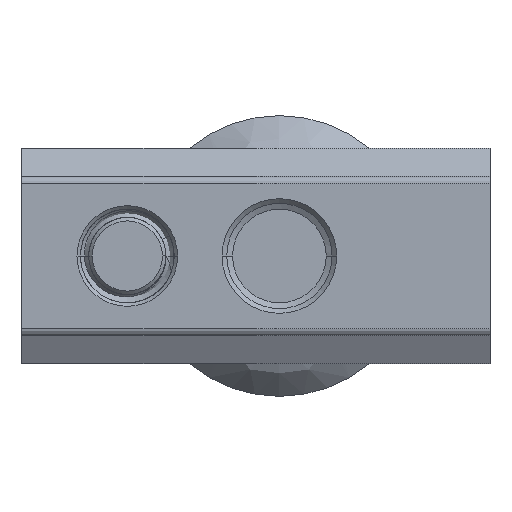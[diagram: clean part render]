
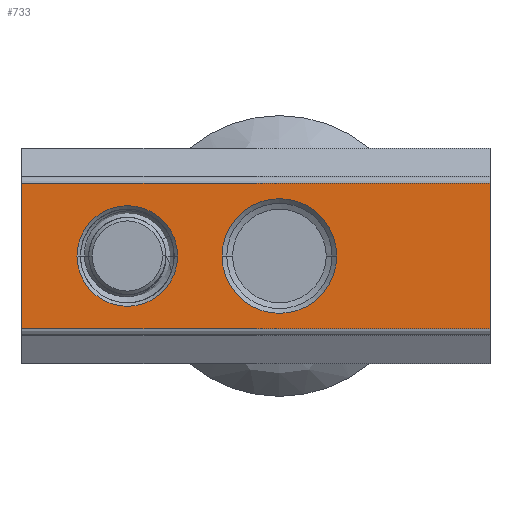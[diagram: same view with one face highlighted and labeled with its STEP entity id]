
A CAD part, front view. The second image highlights one B-rep face of the part: STEP entity #733.
In plain terms, the highlighted planar face has unit normal (0, -1, 0).
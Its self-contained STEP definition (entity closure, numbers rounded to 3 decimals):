
#91=DIRECTION('',(0.,0.,-1.));
#92=VECTOR('',#91,6.2);
#93=CARTESIAN_POINT('',(-10.,0.,3.1));
#94=LINE('',#93,#92);
#181=DIRECTION('',(-1.,0.,0.));
#182=VECTOR('',#181,20.);
#183=CARTESIAN_POINT('',(10.,0.,3.1));
#184=LINE('',#183,#182);
#185=DIRECTION('',(-1.,0.,0.));
#186=VECTOR('',#185,20.);
#187=CARTESIAN_POINT('',(10.,0.,-3.1));
#188=LINE('',#187,#186);
#189=CARTESIAN_POINT('',(-5.5,0.,0.));
#190=DIRECTION('',(0.,1.,0.));
#191=DIRECTION('',(-1.,0.,0.));
#192=AXIS2_PLACEMENT_3D('',#189,#190,#191);
#194=CARTESIAN_POINT('',(-5.5,0.,0.));
#195=DIRECTION('',(0.,1.,0.));
#196=DIRECTION('',(1.,0.,0.));
#197=AXIS2_PLACEMENT_3D('',#194,#195,#196);
#199=CARTESIAN_POINT('',(1.,0.,0.));
#200=DIRECTION('',(0.,1.,0.));
#201=DIRECTION('',(1.,0.,0.));
#202=AXIS2_PLACEMENT_3D('',#199,#200,#201);
#204=CARTESIAN_POINT('',(1.,0.,0.));
#205=DIRECTION('',(0.,1.,0.));
#206=DIRECTION('',(-1.,0.,0.));
#207=AXIS2_PLACEMENT_3D('',#204,#205,#206);
#272=DIRECTION('',(0.,0.,-1.));
#273=VECTOR('',#272,6.2);
#274=CARTESIAN_POINT('',(10.,0.,3.1));
#275=LINE('',#274,#273);
#473=CARTESIAN_POINT('',(-10.,0.,3.1));
#475=VERTEX_POINT('',#473);
#479=CARTESIAN_POINT('',(10.,0.,3.1));
#480=VERTEX_POINT('',#479);
#482=CARTESIAN_POINT('',(-10.,0.,-3.1));
#484=VERTEX_POINT('',#482);
#485=CARTESIAN_POINT('',(10.,0.,-3.1));
#486=VERTEX_POINT('',#485);
#497=CARTESIAN_POINT('',(-7.65,0.,0.));
#498=CARTESIAN_POINT('',(-3.35,0.,0.));
#499=VERTEX_POINT('',#497);
#500=VERTEX_POINT('',#498);
#513=CARTESIAN_POINT('',(3.45,0.,0.));
#514=CARTESIAN_POINT('',(-1.45,0.,0.));
#515=VERTEX_POINT('',#513);
#516=VERTEX_POINT('',#514);
#708=CARTESIAN_POINT('',(-10.,0.,3.4));
#709=DIRECTION('',(0.,-1.,0.));
#710=DIRECTION('',(0.,0.,-1.));
#711=AXIS2_PLACEMENT_3D('',#708,#709,#710);
#712=PLANE('',#711);
#714=ORIENTED_EDGE('',*,*,#713,.F.);
#716=ORIENTED_EDGE('',*,*,#715,.T.);
#717=ORIENTED_EDGE('',*,*,#700,.T.);
#718=ORIENTED_EDGE('',*,*,#548,.F.);
#719=EDGE_LOOP('',(#714,#716,#717,#718));
#720=FACE_OUTER_BOUND('',#719,.F.);
#722=ORIENTED_EDGE('',*,*,#721,.F.);
#724=ORIENTED_EDGE('',*,*,#723,.F.);
#725=EDGE_LOOP('',(#722,#724));
#726=FACE_BOUND('',#725,.F.);
#728=ORIENTED_EDGE('',*,*,#727,.F.);
#730=ORIENTED_EDGE('',*,*,#729,.F.);
#731=EDGE_LOOP('',(#728,#730));
#732=FACE_BOUND('',#731,.F.);
#733=ADVANCED_FACE('',(#720,#726,#732),#712,.T.);
#193=CIRCLE('',#192,2.15);
#198=CIRCLE('',#197,2.15);
#203=CIRCLE('',#202,2.45);
#208=CIRCLE('',#207,2.45);
#548=EDGE_CURVE('',#475,#484,#94,.T.);
#700=EDGE_CURVE('',#486,#484,#188,.T.);
#713=EDGE_CURVE('',#480,#475,#184,.T.);
#715=EDGE_CURVE('',#480,#486,#275,.T.);
#721=EDGE_CURVE('',#499,#500,#193,.T.);
#723=EDGE_CURVE('',#500,#499,#198,.T.);
#727=EDGE_CURVE('',#515,#516,#203,.T.);
#729=EDGE_CURVE('',#516,#515,#208,.T.);
